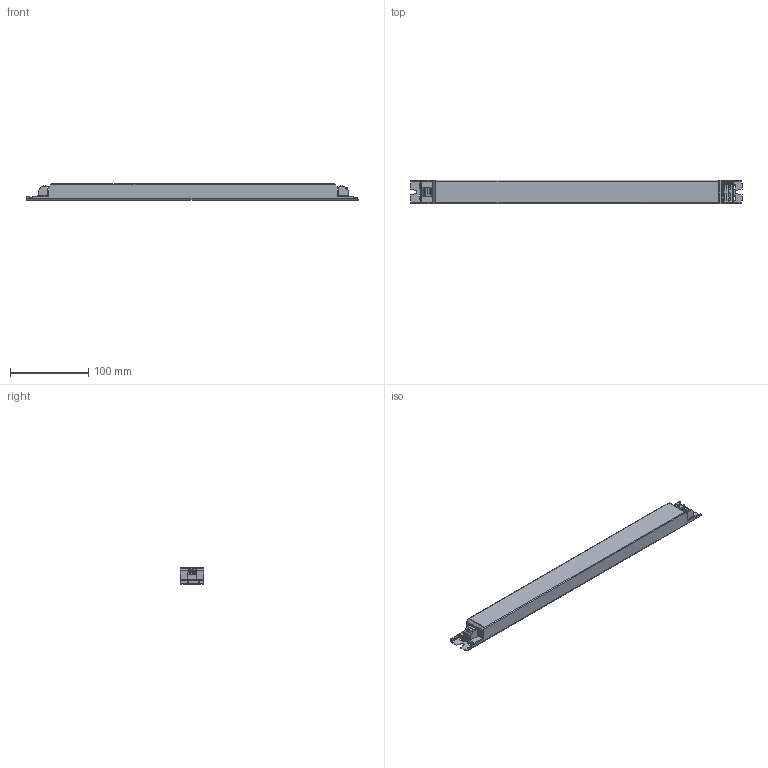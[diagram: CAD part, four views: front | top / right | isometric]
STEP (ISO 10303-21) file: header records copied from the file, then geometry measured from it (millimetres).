
FILE_DESCRIPTION((''),'2;1');
FILE_NAME('15013146Z_DMEC_LP-TROYUS_425','2019-04-15T16:24:46',('juergen.hrach'),(''),'CREO PARAMETRIC BY PTC INC, 2017380','CREO PARAMETRIC BY PTC INC, 2017380','');
FILE_SCHEMA(('AUTOMOTIVE_DESIGN { 1 0 10303 214 1 1 1 1 }'));
Length unit declared in the file: millimetre
Products named in the file (1): 15013146Z_DMEC_LP-TROYUS_425
Bounding box: 425 x 30 x 21 mm (x, y, z)
Volume: 241444.4 mm3; surface area: 43352.8 mm2
Topology: 1 solids, 1 shells, 287 faces, 786 edges, 518 vertices
Faces by surface type: plane 195, cylinder 92
Entity records: 9487 total; most frequent: CARTESIAN_POINT 1623, ORIENTED_EDGE 1572, DIRECTION 1532, EDGE_CURVE 786, VECTOR 598, LINE 598, VERTEX_POINT 518, AXIS2_PLACEMENT_3D 467
